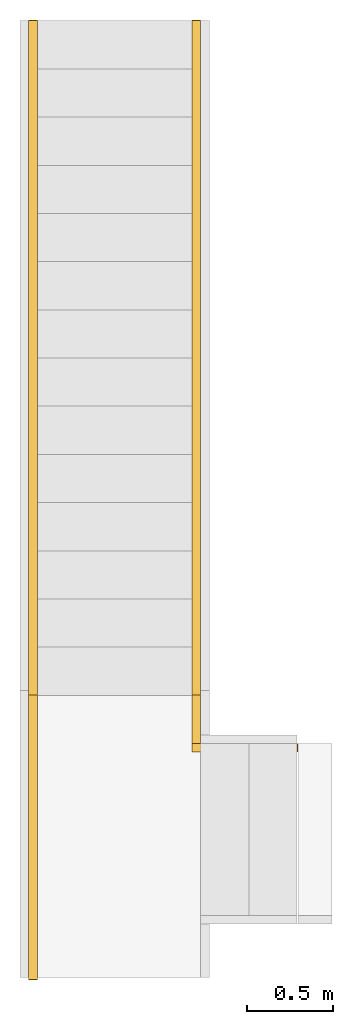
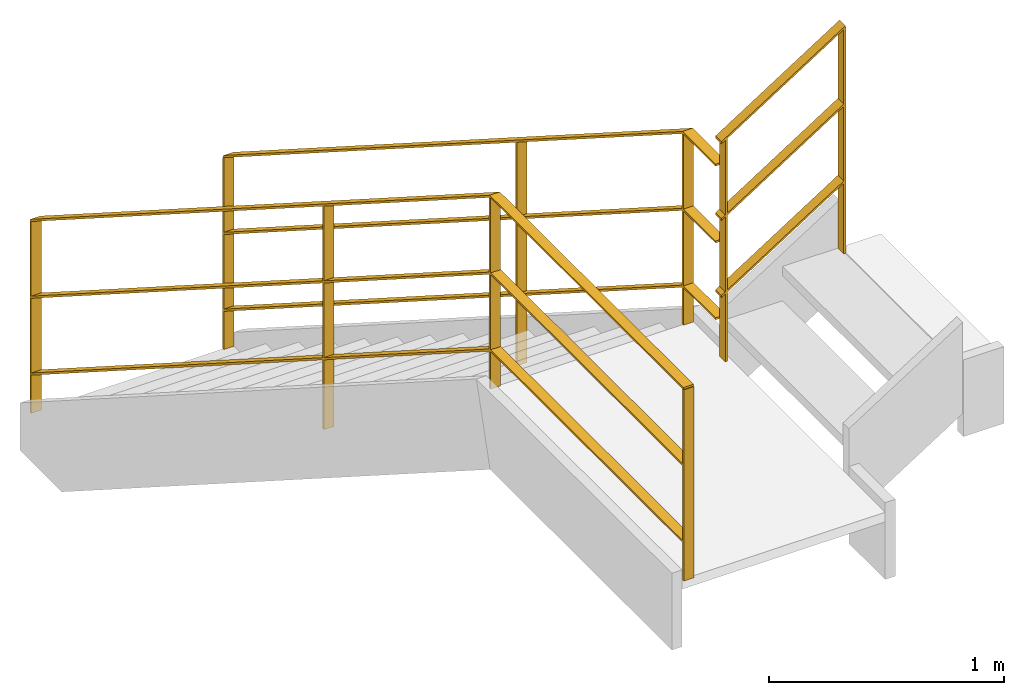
# One storey, part 2 of 2: 2 railings, 1 element without a shape of its own.
"""IFC2X3 building model written with IfcOpenShell, lengths in centimetres."""

from ifc_helpers import new_model, entity, si_unit, converted_unit, derived_unit, direction, frame, origin, place, context, subcontext, project, spatial, faceted_brep, material, element, aggregate, save


model = new_model("IFC2X3")

# Units and contexts
model_context = context("Model", 3, precision=0.001, world=origin(), true_north=direction((6.12303176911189e-17, 1.0)))
body_context = subcontext(model_context, "Body", "Model", "MODEL_VIEW")
ifc_project = project(units=[si_unit("LENGTHUNIT", "METRE", prefix="CENTI"), si_unit("AREAUNIT", "SQUARE_METRE"), si_unit("VOLUMEUNIT", "CUBIC_METRE"), converted_unit("PLANEANGLEUNIT", "DEGREE", entity("IfcRatioMeasure", 0.0174532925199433), si_unit("PLANEANGLEUNIT", "RADIAN"), dimensions=[0, 0, 0, 0, 0, 0, 0]), si_unit("MASSUNIT", "GRAM", prefix="KILO"), derived_unit("MASSDENSITYUNIT", [(si_unit("MASSUNIT", "GRAM", prefix="KILO"), 1), (si_unit("LENGTHUNIT", "METRE"), -3)]), si_unit("TIMEUNIT", "SECOND"), si_unit("FREQUENCYUNIT", "HERTZ"), si_unit("THERMODYNAMICTEMPERATUREUNIT", "DEGREE_CELSIUS"), derived_unit("THERMALTRANSMITTANCEUNIT", [(si_unit("MASSUNIT", "GRAM", prefix="KILO"), 1), (si_unit("THERMODYNAMICTEMPERATUREUNIT", "KELVIN"), -1), (si_unit("TIMEUNIT", "SECOND"), -3)]), derived_unit("VOLUMETRICFLOWRATEUNIT", [(si_unit("LENGTHUNIT", "METRE"), 3), (si_unit("TIMEUNIT", "SECOND"), -1)]), si_unit("ELECTRICCURRENTUNIT", "AMPERE"), si_unit("ELECTRICVOLTAGEUNIT", "VOLT"), si_unit("POWERUNIT", "WATT"), si_unit("FORCEUNIT", "NEWTON", prefix="KILO"), si_unit("ILLUMINANCEUNIT", "LUX"), si_unit("LUMINOUSFLUXUNIT", "LUMEN"), si_unit("LUMINOUSINTENSITYUNIT", "CANDELA"), derived_unit("USERDEFINED", [(si_unit("MASSUNIT", "GRAM", prefix="KILO"), -1), (si_unit("LENGTHUNIT", "METRE"), -2), (si_unit("TIMEUNIT", "SECOND"), 3), (si_unit("LUMINOUSFLUXUNIT", "LUMEN"), 1)]), derived_unit("LINEARVELOCITYUNIT", [(si_unit("LENGTHUNIT", "METRE"), 1), (si_unit("TIMEUNIT", "SECOND"), -1)]), si_unit("PRESSUREUNIT", "PASCAL"), derived_unit("USERDEFINED", [(si_unit("LENGTHUNIT", "METRE"), -2), (si_unit("MASSUNIT", "GRAM", prefix="KILO"), 1), (si_unit("TIMEUNIT", "SECOND"), -2)])], contexts=[model_context])

# Site, building, storey
site_placement = place(None, frame((-2781.94577612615, 7442.24238424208, 0.0)))
site = spatial("IfcSite", under=ifc_project, at=site_placement, Name="Default", CompositionType="ELEMENT")
building_placement = place(site_placement, origin())
building = spatial("IfcBuilding", under=site, at=building_placement, CompositionType="ELEMENT")
storey_placement = place(building_placement, frame((0.0, 0.0, 349.0)))
storey = spatial("IfcBuildingStorey", under=building, at=storey_placement, Name="TR - TECHNIQUE RDC", CompositionType="ELEMENT", Elevation=349.0)

# Stair, railings
stair_placement = place(storey_placement, origin())
stair = element("IfcStair", 1, at=stair_placement, inside=storey, Name="Escalier assemblé:Escalier", ObjectType="Escalier assemblé:Escalier assemblé", ShapeType="NOTDEFINED")
ifc_material = material(Name="Métal - Acier inoxydable, poli")
railing_1_placement = place(stair_placement, frame((-10588.3247381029, -4226.90027342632, 17.8750000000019)))
railing_1 = element("IfcRailing", 2, at=railing_1_placement, material=ifc_material, Name="Garde-corps:Garde corps technique", ObjectType="Garde-corps:Garde corps technique", PredefinedType="NOTDEFINED", context=body_context, shape_type="Brep", body=[
    faceted_brep([(5.0, 164.800000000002, 250.25), (5.0, 166.0, 250.25), (5.0, 166.0, 349.75), (5.0, 164.800000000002, 349.75), (0.0, 164.800000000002, 250.25), (0.0, 164.800000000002, 349.75), (0.0, 166.0, 349.75), (0.0, 166.0, 250.25)], [[[0, 1, 2, 3]], [[4, 5, 6, 7]], [[1, 0, 4, 7]], [[2, 1, 7, 6]], [[3, 2, 6, 5]], [[0, 3, 5, 4]]]),
    faceted_brep([(5.0, 306.800000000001, 143.0), (5.0, 308.0, 143.0), (5.0, 308.0, 258.62197847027), (5.0, 306.800000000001, 259.388049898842), (0.0, 306.800000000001, 143.0), (0.0, 306.800000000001, 259.388049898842), (0.0, 308.0, 258.621978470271), (0.0, 308.0, 143.0)], [[[0, 1, 2, 3]], [[4, 5, 6, 7]], [[1, 0, 4, 7]], [[2, 1, 7, 6]], [[3, 2, 6, 5]], [[0, 3, 5, 4]]]),
    faceted_brep([(5.0, 306.800000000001, 143.0), (5.0, 308.0, 143.0), (5.0, 308.0, 258.62197847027), (5.0, 306.800000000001, 259.388049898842), (0.0, 306.800000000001, 143.0), (0.0, 306.800000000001, 259.388049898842), (0.0, 308.0, 258.621978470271), (0.0, 308.0, 143.0)], [[[0, 1, 2, 3]], [[4, 5, 6, 7]], [[1, 0, 4, 7]], [[2, 1, 7, 6]], [[3, 2, 6, 5]], [[0, 3, 5, 4]]]),
    faceted_brep([(5.0, 0.0, 250.25), (5.0, 1.19999999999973, 250.25), (5.0, 1.19999999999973, 349.75), (5.0, 0.0, 349.75), (0.0, 0.0, 250.25), (0.0, 0.0, 349.75), (0.0, 1.19999999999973, 349.75), (0.0, 1.19999999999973, 250.25)], [[[0, 1, 2, 3]], [[4, 5, 6, 7]], [[1, 0, 4, 7]], [[2, 1, 7, 6]], [[3, 2, 6, 5]], [[0, 3, 5, 4]]]),
    faceted_brep([(5.0, 556.600000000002, 0.0), (5.0, 557.800000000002, 0.0), (5.0, 557.800000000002, 99.151442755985), (5.0, 556.600000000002, 99.9175141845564), (0.0, 556.600000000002, 0.0), (0.0, 556.600000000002, 99.9175141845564), (0.0, 557.800000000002, 99.151442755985), (0.0, 557.800000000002, 0.0)], [[[0, 1, 2, 3]], [[4, 5, 6, 7]], [[1, 0, 4, 7]], [[2, 1, 7, 6]], [[3, 2, 6, 5]], [[0, 3, 5, 4]]]),
    faceted_brep([(0.0, 557.400000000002, 99.4067998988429), (0.0, 557.400000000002, 100.593200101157), (5.0, 557.400000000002, 100.593200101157), (5.0, 557.400000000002, 99.4067998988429), (5.0, 165.545991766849, 350.749999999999), (5.0, 165.254008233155, 349.750000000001), (0.0, 165.254008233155, 349.750000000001), (0.0, 165.54599176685, 350.750000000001), (0.0, 0.400000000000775, 349.749999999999), (5.0, 0.400000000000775, 349.749999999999), (5.0, 0.400000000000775, 350.749999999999), (0.0, 0.400000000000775, 350.749999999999)], [[[0, 1, 2, 3]], [[3, 2, 4, 5]], [[0, 3, 5, 6]], [[1, 0, 6, 7]], [[2, 1, 7, 4]], [[8, 9, 10, 11]], [[7, 6, 8, 11]], [[4, 7, 11, 10]], [[5, 4, 10, 9]], [[6, 5, 9, 8]]]),
    faceted_brep([(0.0, 557.400000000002, 59.4067998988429), (0.0, 557.400000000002, 60.5932001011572), (5.0, 557.400000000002, 60.5932001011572), (5.0, 557.400000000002, 59.4067998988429), (0.0, 165.254008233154, 309.75), (0.0, 165.54599176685, 310.750000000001), (5.0, 165.54599176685, 310.750000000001), (5.0, 165.254008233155, 309.750000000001), (0.0, 0.400000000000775, 309.75), (5.0, 0.400000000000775, 309.75), (5.0, 0.400000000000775, 310.75), (0.0, 0.400000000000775, 310.75)], [[[0, 1, 2, 3]], [[1, 0, 4, 5]], [[2, 1, 5, 6]], [[3, 2, 6, 7]], [[0, 3, 7, 4]], [[8, 9, 10, 11]], [[5, 4, 8, 11]], [[6, 5, 11, 10]], [[7, 6, 10, 9]], [[4, 7, 9, 8]]]),
    faceted_brep([(0.0, 557.400000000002, 19.4067998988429), (0.0, 557.400000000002, 20.5932001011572), (5.0, 557.400000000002, 20.5932001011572), (5.0, 557.400000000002, 19.4067998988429), (0.0, 165.254008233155, 269.75), (0.0, 165.54599176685, 270.750000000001), (5.0, 165.54599176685, 270.750000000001), (5.0, 165.254008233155, 269.750000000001), (0.0, 0.400000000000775, 269.75), (5.0, 0.400000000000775, 269.75), (5.0, 0.400000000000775, 270.75), (0.0, 0.400000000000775, 270.75)], [[[0, 1, 2, 3]], [[1, 0, 4, 5]], [[2, 1, 5, 6]], [[3, 2, 6, 7]], [[0, 3, 7, 4]], [[8, 9, 10, 11]], [[5, 4, 8, 11]], [[6, 5, 11, 10]], [[7, 6, 10, 9]], [[4, 7, 9, 8]]]),
])
railing_2_placement = place(stair_placement, frame((-10493.4047381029, -4094.54027342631, 17.8750000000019)))
railing_2 = element("IfcRailing", 3, at=railing_2_placement, material=ifc_material, Name="Garde-corps:Garde corps technique", ObjectType="Garde-corps:Garde corps technique", PredefinedType="NOTDEFINED", context=body_context, shape_type="Brep", body=[
    faceted_brep([(0.0, 32.4400000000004, 250.25), (0.0, 32.4400000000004, 349.75), (0.0, 33.6400000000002, 349.75), (0.0, 33.6400000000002, 250.25), (5.0, 32.4400000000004, 250.25), (5.0, 33.6400000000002, 250.25), (5.0, 33.6400000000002, 349.75), (5.0, 32.4400000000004, 349.75)], [[[0, 1, 2, 3]], [[4, 5, 6, 7]], [[3, 5, 4, 0]], [[2, 6, 5, 3]], [[1, 7, 6, 2]], [[0, 4, 7, 1]]]),
    faceted_brep([(0.0, 174.44, 143.0), (0.0, 174.44, 259.388049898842), (0.0, 175.64, 258.62197847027), (0.0, 175.64, 143.0), (5.0, 174.44, 143.0), (5.0, 175.64, 143.0), (5.0, 175.64, 258.621978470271), (5.0, 174.44, 259.388049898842)], [[[0, 1, 2, 3]], [[4, 5, 6, 7]], [[3, 5, 4, 0]], [[2, 6, 5, 3]], [[1, 7, 6, 2]], [[0, 4, 7, 1]]]),
    faceted_brep([(0.0, 174.44, 143.0), (0.0, 174.44, 259.388049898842), (0.0, 175.64, 258.62197847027), (0.0, 175.64, 143.0), (5.0, 174.44, 143.0), (5.0, 175.64, 143.0), (5.0, 175.64, 258.621978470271), (5.0, 174.44, 259.388049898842)], [[[0, 1, 2, 3]], [[4, 5, 6, 7]], [[3, 5, 4, 0]], [[2, 6, 5, 3]], [[1, 7, 6, 2]], [[0, 4, 7, 1]]]),
    faceted_brep([(3.10000000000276, 0.0, 250.25), (3.10000000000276, 0.0, 366.293317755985), (1.90000000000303, 0.0, 365.527246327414), (1.90000000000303, 0.0, 250.25), (3.10000000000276, 5.0, 250.25), (1.90000000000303, 5.0, 250.25), (1.90000000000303, 5.0, 365.527246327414), (3.10000000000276, 5.0, 366.293317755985)], [[[0, 1, 2, 3]], [[4, 5, 6, 7]], [[3, 5, 4, 0]], [[2, 6, 5, 3]], [[1, 7, 6, 2]], [[0, 4, 7, 1]]]),
    faceted_brep([(61.4400000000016, 0.0, 286.0), (61.4400000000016, 0.0, 403.537157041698), (60.2400000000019, 0.0, 402.771085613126), (60.2400000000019, 0.0, 286.0), (61.4400000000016, 5.0, 286.0), (60.2400000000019, 5.0, 286.0), (60.2400000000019, 5.0, 402.771085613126), (61.4400000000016, 5.0, 403.537157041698)], [[[0, 1, 2, 3]], [[4, 5, 6, 7]], [[3, 5, 4, 0]], [[2, 6, 5, 3]], [[1, 7, 6, 2]], [[0, 4, 7, 1]]]),
    faceted_brep([(0.0, 424.240000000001, 0.0), (0.0, 424.240000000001, 99.9175141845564), (0.0, 425.440000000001, 99.151442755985), (0.0, 425.440000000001, 0.0), (5.0, 424.240000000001, 0.0), (5.0, 425.440000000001, 0.0), (5.0, 425.440000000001, 99.151442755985), (5.0, 424.240000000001, 99.9175141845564)], [[[0, 1, 2, 3]], [[4, 5, 6, 7]], [[3, 5, 4, 0]], [[2, 6, 5, 3]], [[1, 7, 6, 2]], [[0, 4, 7, 1]]]),
    faceted_brep([(5.0, 425.040000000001, 99.4067998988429), (0.0, 425.040000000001, 99.4067998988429), (0.0, 425.040000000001, 100.593200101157), (5.0, 425.040000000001, 100.593200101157), (5.0, 32.8940082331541, 349.750000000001), (0.0, 32.8940082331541, 349.750000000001), (0.0, 33.185991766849, 350.750000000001), (5.0, 33.185991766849, 350.750000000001), (5.0, 5.0, 349.75), (5.0, 5.0, 350.75), (0.0, 5.0, 350.75), (0.0, 5.0, 349.75)], [[[0, 1, 2, 3]], [[1, 0, 4, 5]], [[2, 1, 5, 6]], [[3, 2, 6, 7]], [[0, 3, 7, 4]], [[8, 9, 10, 11]], [[5, 4, 8, 11]], [[6, 5, 11, 10]], [[7, 6, 10, 9]], [[4, 7, 9, 8]]]),
    faceted_brep([(5.0, 425.040000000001, 59.4067998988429), (0.0, 425.040000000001, 59.4067998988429), (0.0, 425.040000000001, 60.5932001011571), (5.0, 425.040000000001, 60.5932001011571), (5.0, 32.8940082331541, 309.750000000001), (0.0, 32.8940082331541, 309.750000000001), (0.0, 33.185991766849, 310.750000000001), (5.0, 33.185991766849, 310.750000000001), (5.0, 5.0, 309.75), (5.0, 5.0, 310.75), (0.0, 5.0, 310.75), (0.0, 5.0, 309.75)], [[[0, 1, 2, 3]], [[1, 0, 4, 5]], [[2, 1, 5, 6]], [[3, 2, 6, 7]], [[0, 3, 7, 4]], [[8, 9, 10, 11]], [[5, 4, 8, 11]], [[6, 5, 11, 10]], [[7, 6, 10, 9]], [[4, 7, 9, 8]]]),
    faceted_brep([(5.0, 425.040000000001, 19.4067998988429), (0.0, 425.040000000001, 19.4067998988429), (0.0, 425.040000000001, 20.5932001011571), (5.0, 425.040000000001, 20.5932001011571), (5.0, 32.8940082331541, 269.750000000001), (0.0, 32.8940082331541, 269.750000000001), (0.0, 33.185991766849, 270.750000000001), (5.0, 33.185991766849, 270.750000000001), (5.0, 5.0, 269.75), (5.0, 5.0, 270.75), (0.0, 5.0, 270.75), (0.0, 5.0, 269.75)], [[[0, 1, 2, 3]], [[1, 0, 4, 5]], [[2, 1, 5, 6]], [[3, 2, 6, 7]], [[0, 3, 7, 4]], [[8, 9, 10, 11]], [[5, 4, 8, 11]], [[6, 5, 11, 10]], [[7, 6, 10, 9]], [[4, 7, 9, 8]]]),
    faceted_brep([(0.0, 5.0, 364.314299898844), (0.0, 0.0, 364.314299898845), (0.0, 0.0, 365.500700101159), (0.0, 5.0, 365.500700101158), (61.0400000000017, 5.0, 403.281799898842), (61.0400000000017, 5.0, 404.468200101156), (61.0400000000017, 0.0, 404.468200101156), (61.0400000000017, 0.0, 403.281799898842)], [[[0, 1, 2, 3]], [[4, 5, 6, 7]], [[1, 0, 4, 7]], [[2, 1, 7, 6]], [[3, 2, 6, 5]], [[0, 3, 5, 4]]]),
    faceted_brep([(0.0, 5.0, 324.314299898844), (0.0, 0.0, 324.314299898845), (0.0, 0.0, 325.500700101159), (0.0, 5.0, 325.500700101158), (61.0400000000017, 5.0, 363.281799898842), (61.0400000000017, 5.0, 364.468200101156), (61.0400000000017, 0.0, 364.468200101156), (61.0400000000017, 0.0, 363.281799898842)], [[[0, 1, 2, 3]], [[4, 5, 6, 7]], [[1, 0, 4, 7]], [[2, 1, 7, 6]], [[3, 2, 6, 5]], [[0, 3, 5, 4]]]),
    faceted_brep([(0.0, 5.0, 284.314299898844), (0.0, 0.0, 284.314299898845), (0.0, 0.0, 285.500700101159), (0.0, 5.0, 285.500700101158), (61.0400000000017, 5.0, 323.281799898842), (61.0400000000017, 5.0, 324.468200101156), (61.0400000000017, 0.0, 324.468200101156), (61.0400000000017, 0.0, 323.281799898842)], [[[0, 1, 2, 3]], [[4, 5, 6, 7]], [[1, 0, 4, 7]], [[2, 1, 7, 6]], [[3, 2, 6, 5]], [[0, 3, 5, 4]]]),
])
aggregate(stair, [railing_1, railing_2])

save(model, "model.ifc")
